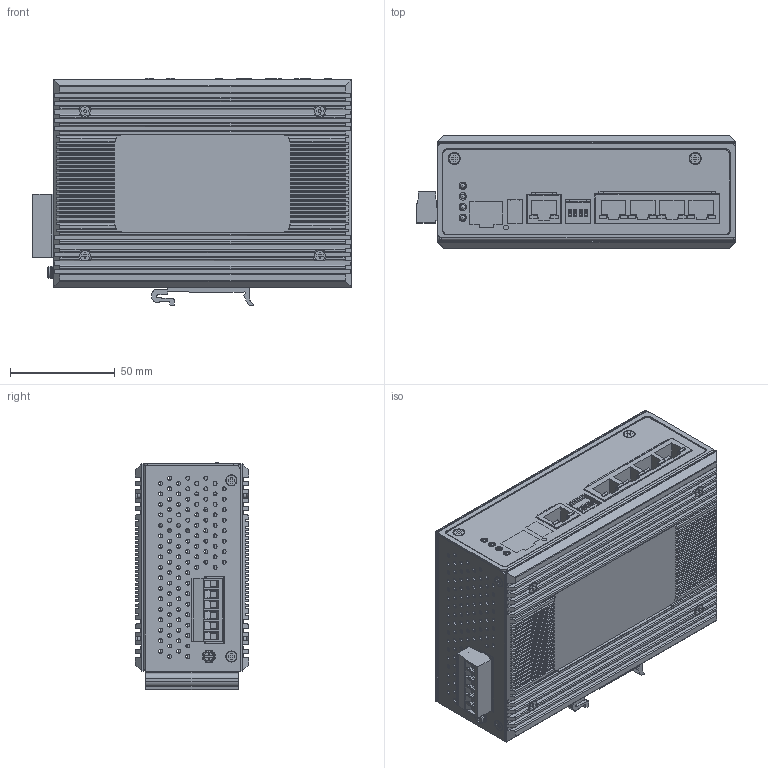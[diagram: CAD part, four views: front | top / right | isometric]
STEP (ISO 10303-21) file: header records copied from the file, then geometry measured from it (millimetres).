
FILE_DESCRIPTION(/* description */ ('STEP AP242','CAx-IF Rec.Pracs.---Representation and Presentation of Product Manufacturing Information (PMI)---4.0---2014-10-13','CAx-IF Rec.Pracs.---3D Tessellated Geometry---0.4---2014-09-14','2;1'),/* implementation_level */ '2;1');
FILE_NAME(/* name */ '67eee220c032b91a06240d5e',/* time_stamp */ '2025-04-03T19:31:47Z',/* author */ (''),/* organization */ (''),/* preprocessor_version */ 'ST-DEVELOPER v20',/* originating_system */ 'ONSHAPE BY PTC INC, 1.195',/* authorisation */ ' ');
FILE_SCHEMA (('AP242_MANAGED_MODEL_BASED_3D_ENGINEERING_MIM_LF { 1 0 10303 442 1 1 4 }'));
Products named in the file (59): SD-014; PRT0002_2; PRT0007; PRT0002; PRT0016_2; SCREW_M3X4_F_1; PRT0002_1; PRT0018; SCREW_M3X4_F_1_2; PRT0021; PRT0004_1; PRT0001; PRT0014_2; PRT0022; PRT0012_2; PRT0006; PRT0002_3; PRT0004; PRT0014_3; SCREW_M3X4_F_1_10; PRT0012_1; SCREW_M3X4_F_1_9; SCREW_M3X4_F_1_12; PRT0020; PRT0013_1; SCREW_M3X4_F_1_1; PRT0023; PRT0008; PRT0017; PRT0016; PRT0010_3; SCREW_M3X4_F_1_13; SCREW_M3X4_F_1_4; PRT0012; SCREW_M3X4_F_1_3; PRT0013_3; PRT0003; SCREW_M3X4_F_1_8; SCREW_M3X4_F_1_11; PRT0014_1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
Assembly tree (58 placements, depth 2):
  SD-014
    PRT0002_2
    PRT0007
    PRT0002
    PRT0016_2
    SCREW_M3X4_F_1
    PRT0002_1
    PRT0018
    SCREW_M3X4_F_1_2
    PRT0021
    PRT0004_1
    PRT0001
    PRT0014_2
    PRT0022
    PRT0012_2
    PRT0006
    PRT0002_3
    PRT0004
    PRT0014_3
    SCREW_M3X4_F_1_10
    PRT0012_1
    SCREW_M3X4_F_1_9
    SCREW_M3X4_F_1_12
    PRT0020
    PRT0013_1
    SCREW_M3X4_F_1_1
    PRT0023
    PRT0008
    PRT0017
    PRT0016
    PRT0010_3
    SCREW_M3X4_F_1_13
    SCREW_M3X4_F_1_4
    PRT0012
    SCREW_M3X4_F_1_3
    PRT0013_3
    PRT0003
    SCREW_M3X4_F_1_8
    SCREW_M3X4_F_1_11
    PRT0014_1
    PRT0010_2
    PRT0013_2
    PRT0009
    PRT0016_3
    PRT0010
    SCREW_M3X4_F_1_15
    PRT0019
    PRT0015
    PRT0013
    PRT0011
    SCREW_M3X4_F_1_14
    PRT0012_3
    PRT0016_1
    PRT0005
    PRT0014
    PRT0010_1
    SCREW_M3X4_F_1_6
    SCREW_M3X4_F_1_5
    SCREW_M3X4_F_1_7
Bounding box: 152 x 54 x 108.37 mm (x, y, z)
Volume: 177385.8 mm3; surface area: 225522.7 mm2
Topology: 58 solids, 62 shells, 3391 faces, 9009 edges, 5876 vertices
Faces by surface type: plane 2073, cylinder 1099, cone 92, torus 91, sphere 34, bspline 2
Full cylindrical faces by diameter (mm): 0.6 x8, 1.4 x6, 1.5 x1, 1.9 x245, 2 x25, 2.3 x5, 2.449 x4, 2.459 x4, 2.8 x10, 2.9 x8, 3 x22, 3.2 x4, 3.4 x8, 3.5 x11, 3.78 x4, 3.783 x6, 3.99 x8, 4 x40, 4.2 x13, 5 x18, 5.5 x1, 10 x4
Entity records: 105820 total; most frequent: CARTESIAN_POINT 20526, DIRECTION 17365, ORIENTED_EDGE 16456, EDGE_CURVE 8228, AXIS2_PLACEMENT_3D 5829, LINE 5707, VECTOR 5707, VERTEX_POINT 5684
